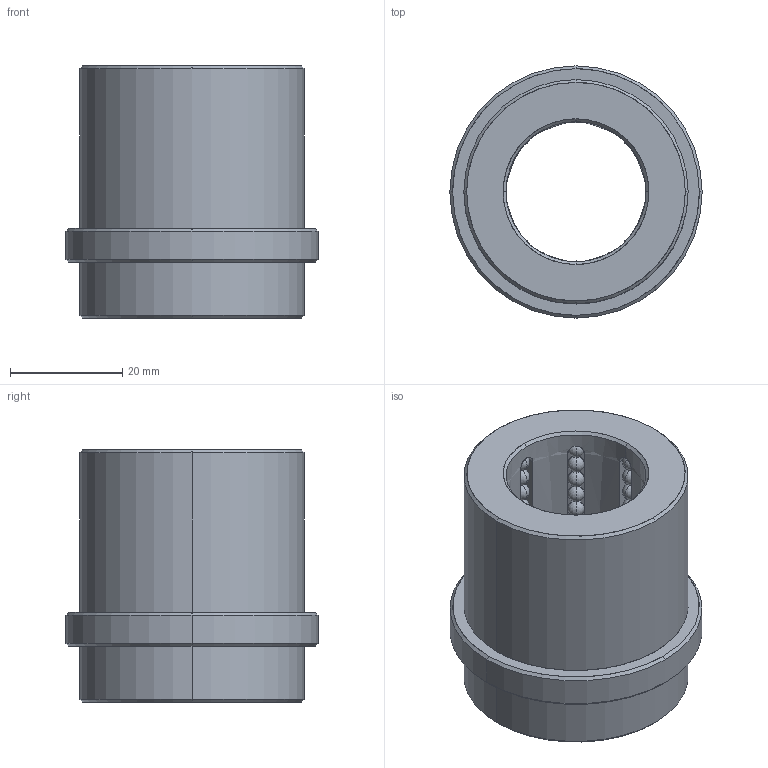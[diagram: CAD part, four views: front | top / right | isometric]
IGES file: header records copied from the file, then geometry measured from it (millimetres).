
Start section: START RECORD GO HERE.
Global section: file name: B8022535.igs; native system: DASSAULT SYSTEMES CATIA V5 R20 - www.3ds.com; preprocessor: CATIA Version 5 Release 20 ; author: Utente; organization: NB04-ASUS; date: 20200419.150127; units: millimetre
Bounding box: 45 x 45 x 45 mm (x, y, z)
Surface area: 15891.8 mm2 (no closed solid volume)
Topology: 0 solids, 0 shells, 460 faces, 1908 edges, 1140 vertices
Faces by surface type: revolution 432, plane 28
